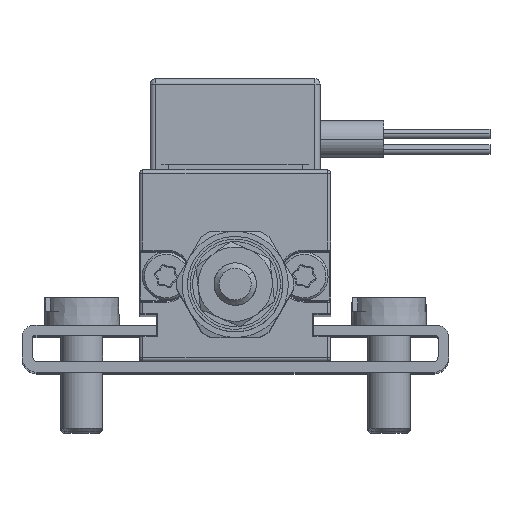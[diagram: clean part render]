
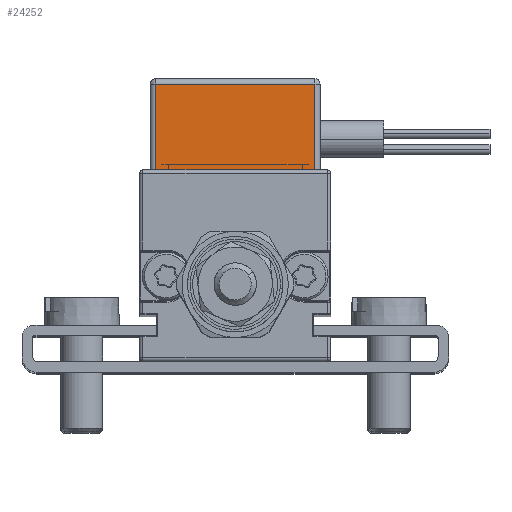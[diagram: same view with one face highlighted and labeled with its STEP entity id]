
A CAD part, top view. The second image highlights one B-rep face of the part: STEP entity #24252.
In plain terms, the highlighted planar face has unit normal (0, 0, 1).
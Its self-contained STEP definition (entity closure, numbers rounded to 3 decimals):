
#18980 = DIRECTION ( 'NONE',  ( 0., 1., 0. ) ) ;
#18981 = VECTOR ( 'NONE', #18980, 1000. ) ;
#18982 = CARTESIAN_POINT ( 'NONE',  ( -10.269, 18.35, 104.451 ) ) ;
#18983 = LINE ( 'NONE', #18982, #18981 ) ;
#18985 = CARTESIAN_POINT ( 'NONE',  ( -10.269, 9.75, 104.451 ) ) ;
#19003 = CARTESIAN_POINT ( 'NONE',  ( 4.731, 9.75, 104.451 ) ) ;
#19004 = DIRECTION ( 'NONE',  ( 0., -1., 0. ) ) ;
#19005 = VECTOR ( 'NONE', #19004, 1000. ) ;
#19006 = CARTESIAN_POINT ( 'NONE',  ( 4.731, 18.35, 104.451 ) ) ;
#19007 = LINE ( 'NONE', #19006, #19005 ) ;
#19008 = CARTESIAN_POINT ( 'NONE',  ( 4.731, 17.85, 104.451 ) ) ;
#19083 = CARTESIAN_POINT ( 'NONE',  ( -10.269, 17.85, 104.451 ) ) ;
#19163 = DIRECTION ( 'NONE',  ( -1., 0., 0. ) ) ;
#19164 = VECTOR ( 'NONE', #19163, 1000. ) ;
#19165 = CARTESIAN_POINT ( 'NONE',  ( -10.769, 9.75, 104.451 ) ) ;
#19166 = LINE ( 'NONE', #19165, #19164 ) ;
#19189 = DIRECTION ( 'NONE',  ( 1., 0., 0. ) ) ;
#19190 = VECTOR ( 'NONE', #19189, 1000. ) ;
#19191 = CARTESIAN_POINT ( 'NONE',  ( 5.231, 17.85, 104.451 ) ) ;
#19192 = LINE ( 'NONE', #19191, #19190 ) ;
#19510 = DIRECTION ( 'NONE',  ( -1., 0., 0. ) ) ;
#19511 = DIRECTION ( 'NONE',  ( 0., 0., -1. ) ) ;
#19512 = CARTESIAN_POINT ( 'NONE',  ( -10.769, 18.35, 104.451 ) ) ;
#19513 = AXIS2_PLACEMENT_3D ( 'NONE', #19512, #19511, #19510 ) ;
#19514 = PLANE ( 'NONE',  #19513 ) ;
#19529 = FACE_OUTER_BOUND ( 'NONE', #24255, .T. ) ;
#24005 = VERTEX_POINT ( 'NONE', #18985 ) ;
#24010 = EDGE_CURVE ( 'NONE', #24005, #24045, #18983, .T. ) ;
#24023 = VERTEX_POINT ( 'NONE', #19008 ) ;
#24026 = EDGE_CURVE ( 'NONE', #24023, #24027, #19007, .T. ) ;
#24027 = VERTEX_POINT ( 'NONE', #19003 ) ;
#24045 = VERTEX_POINT ( 'NONE', #19083 ) ;
#24089 = EDGE_CURVE ( 'NONE', #24027, #24005, #19166, .T. ) ;
#24117 = ORIENTED_EDGE ( 'NONE', *, *, #24119, .F. ) ;
#24119 = EDGE_CURVE ( 'NONE', #24045, #24023, #19192, .T. ) ;
#24120 = ORIENTED_EDGE ( 'NONE', *, *, #24010, .F. ) ;
#24121 = ORIENTED_EDGE ( 'NONE', *, *, #24089, .F. ) ;
#24252 = ADVANCED_FACE ( 'NONE', ( #19529 ), #19514, .F. ) ;
#24255 = EDGE_LOOP ( 'NONE', ( #24257, #24117, #24120, #24121 ) ) ;
#24257 = ORIENTED_EDGE ( 'NONE', *, *, #24026, .F. ) ;
